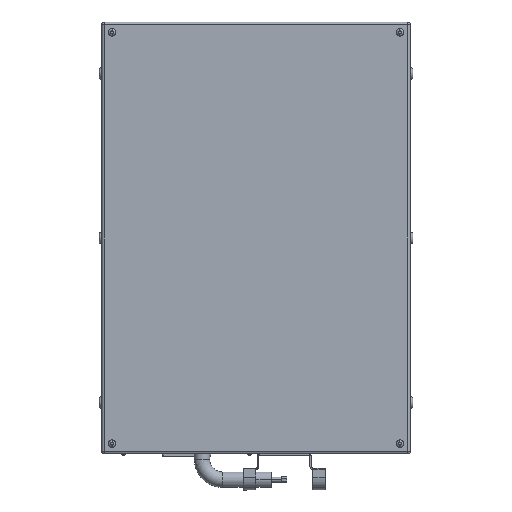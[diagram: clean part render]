
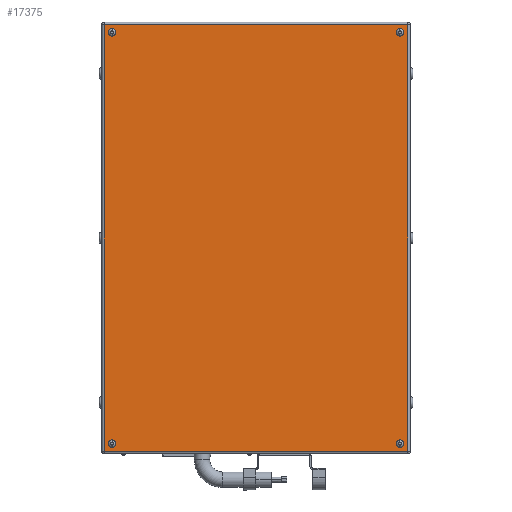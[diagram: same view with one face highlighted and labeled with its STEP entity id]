
A CAD part, front view. The second image highlights one B-rep face of the part: STEP entity #17375.
In plain terms, the highlighted planar face has unit normal (0, -1, 0).
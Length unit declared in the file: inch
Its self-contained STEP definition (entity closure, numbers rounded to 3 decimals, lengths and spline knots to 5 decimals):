
#22 = CIRCLE ( 'NONE', #7686, 0.37402 ) ;
#176 = EDGE_LOOP ( 'NONE', ( #20647, #5209 ) ) ;
#976 = EDGE_CURVE ( 'NONE', #15322, #3089, #1947, .T. ) ;
#1118 = DIRECTION ( 'NONE',  ( 0., -1., 0. ) ) ;
#1128 = AXIS2_PLACEMENT_3D ( 'NONE', #18294, #13074, #6786 ) ;
#1228 = AXIS2_PLACEMENT_3D ( 'NONE', #7418, #4227, #20133 ) ;
#1295 = AXIS2_PLACEMENT_3D ( 'NONE', #20761, #6391, #12793 ) ;
#1802 = LINE ( 'NONE', #8211, #2260 ) ;
#1947 = CIRCLE ( 'NONE', #17012, 0.37402 ) ;
#2100 = VERTEX_POINT ( 'NONE', #4366 ) ;
#2200 = AXIS2_PLACEMENT_3D ( 'NONE', #11062, #6033, #12761 ) ;
#2260 = VECTOR ( 'NONE', #17981, 39.37008 ) ;
#2523 = LINE ( 'NONE', #18989, #7312 ) ;
#2591 = CARTESIAN_POINT ( 'NONE',  ( 14., -11.5, -20. ) ) ;
#2710 = DIRECTION ( 'NONE',  ( 0., 0., -1. ) ) ;
#2843 = LINE ( 'NONE', #17229, #20543 ) ;
#3020 = DIRECTION ( 'NONE',  ( 0., -1., 0. ) ) ;
#3089 = VERTEX_POINT ( 'NONE', #6014 ) ;
#3304 = FACE_BOUND ( 'NONE', #6397, .T. ) ;
#4227 = DIRECTION ( 'NONE',  ( 0., -1., 0. ) ) ;
#4288 = DIRECTION ( 'NONE',  ( 1., 0., 0. ) ) ;
#4366 = CARTESIAN_POINT ( 'NONE',  ( -14., -11.5, -20.37402 ) ) ;
#4441 = CIRCLE ( 'NONE', #6480, 0.37402 ) ;
#4864 = ORIENTED_EDGE ( 'NONE', *, *, #19385, .F. ) ;
#5081 = CARTESIAN_POINT ( 'NONE',  ( 14., -11.5, -19.62598 ) ) ;
#5165 = ORIENTED_EDGE ( 'NONE', *, *, #16680, .T. ) ;
#5209 = ORIENTED_EDGE ( 'NONE', *, *, #11194, .F. ) ;
#5675 = AXIS2_PLACEMENT_3D ( 'NONE', #12470, #1118, #12571 ) ;
#6010 = CARTESIAN_POINT ( 'NONE',  ( -14.734, -11.5, -20.8 ) ) ;
#6014 = CARTESIAN_POINT ( 'NONE',  ( 14., -11.5, -20.37402 ) ) ;
#6033 = DIRECTION ( 'NONE',  ( 0., -1., 0. ) ) ;
#6125 = EDGE_CURVE ( 'NONE', #10639, #15435, #1802, .T. ) ;
#6336 = EDGE_CURVE ( 'NONE', #13051, #10639, #2523, .T. ) ;
#6391 = DIRECTION ( 'NONE',  ( 0., -1., 0. ) ) ;
#6397 = EDGE_LOOP ( 'NONE', ( #17101, #9719 ) ) ;
#6480 = AXIS2_PLACEMENT_3D ( 'NONE', #17403, #3020, #19272 ) ;
#6786 = DIRECTION ( 'NONE',  ( 0., 0., -1. ) ) ;
#7217 = DIRECTION ( 'NONE',  ( 0., -1., 0. ) ) ;
#7294 = EDGE_CURVE ( 'NONE', #16195, #13831, #13059, .T. ) ;
#7312 = VECTOR ( 'NONE', #8918, 39.37008 ) ;
#7403 = ORIENTED_EDGE ( 'NONE', *, *, #11828, .T. ) ;
#7418 = CARTESIAN_POINT ( 'NONE',  ( 14., -11.5, 20. ) ) ;
#7686 = AXIS2_PLACEMENT_3D ( 'NONE', #10779, #20451, #2710 ) ;
#7864 = ORIENTED_EDGE ( 'NONE', *, *, #976, .F. ) ;
#7884 = VERTEX_POINT ( 'NONE', #12505 ) ;
#8116 = EDGE_LOOP ( 'NONE', ( #9576, #20345, #7403, #5165 ) ) ;
#8211 = CARTESIAN_POINT ( 'NONE',  ( -14.8, -11.5, 20.734 ) ) ;
#8732 = VERTEX_POINT ( 'NONE', #19514 ) ;
#8900 = CIRCLE ( 'NONE', #2200, 0.37402 ) ;
#8918 = DIRECTION ( 'NONE',  ( 0., 0., 1. ) ) ;
#9576 = ORIENTED_EDGE ( 'NONE', *, *, #6336, .T. ) ;
#9719 = ORIENTED_EDGE ( 'NONE', *, *, #7294, .F. ) ;
#9756 = EDGE_CURVE ( 'NONE', #15050, #7884, #19429, .T. ) ;
#10111 = FACE_OUTER_BOUND ( 'NONE', #8116, .T. ) ;
#10626 = LINE ( 'NONE', #6010, #10870 ) ;
#10639 = VERTEX_POINT ( 'NONE', #18709 ) ;
#10779 = CARTESIAN_POINT ( 'NONE',  ( -14., -11.5, -20. ) ) ;
#10870 = VECTOR ( 'NONE', #15540, 39.37008 ) ;
#11052 = ORIENTED_EDGE ( 'NONE', *, *, #13340, .F. ) ;
#11062 = CARTESIAN_POINT ( 'NONE',  ( -14., -11.5, -20. ) ) ;
#11132 = DIRECTION ( 'NONE',  ( 0., -1., 0. ) ) ;
#11194 = EDGE_CURVE ( 'NONE', #7884, #15050, #17453, .T. ) ;
#11195 = CARTESIAN_POINT ( 'NONE',  ( 14., -11.5, 20.37402 ) ) ;
#11700 = PLANE ( 'NONE',  #1128 ) ;
#11828 = EDGE_CURVE ( 'NONE', #15435, #8732, #10626, .T. ) ;
#12021 = CARTESIAN_POINT ( 'NONE',  ( -14.734, -11.5, 20.734 ) ) ;
#12470 = CARTESIAN_POINT ( 'NONE',  ( 14., -11.5, 20. ) ) ;
#12505 = CARTESIAN_POINT ( 'NONE',  ( -14., -11.5, 19.62598 ) ) ;
#12571 = DIRECTION ( 'NONE',  ( 0., 0., -1. ) ) ;
#12650 = FACE_BOUND ( 'NONE', #20569, .T. ) ;
#12761 = DIRECTION ( 'NONE',  ( 0., 0., -1. ) ) ;
#12793 = DIRECTION ( 'NONE',  ( 0., 0., -1. ) ) ;
#12976 = CARTESIAN_POINT ( 'NONE',  ( 14., -11.5, 19.62598 ) ) ;
#13051 = VERTEX_POINT ( 'NONE', #18707 ) ;
#13059 = CIRCLE ( 'NONE', #5675, 0.37402 ) ;
#13074 = DIRECTION ( 'NONE',  ( 0., -1., 0. ) ) ;
#13340 = EDGE_CURVE ( 'NONE', #16423, #2100, #22, .T. ) ;
#13614 = DIRECTION ( 'NONE',  ( 0., 0., -1. ) ) ;
#13831 = VERTEX_POINT ( 'NONE', #11195 ) ;
#14152 = EDGE_LOOP ( 'NONE', ( #11052, #4864 ) ) ;
#14204 = FACE_BOUND ( 'NONE', #176, .T. ) ;
#15050 = VERTEX_POINT ( 'NONE', #16949 ) ;
#15322 = VERTEX_POINT ( 'NONE', #5081 ) ;
#15435 = VERTEX_POINT ( 'NONE', #12021 ) ;
#15540 = DIRECTION ( 'NONE',  ( 0., 0., -1. ) ) ;
#16195 = VERTEX_POINT ( 'NONE', #12976 ) ;
#16423 = VERTEX_POINT ( 'NONE', #20709 ) ;
#16680 = EDGE_CURVE ( 'NONE', #8732, #13051, #2843, .T. ) ;
#16949 = CARTESIAN_POINT ( 'NONE',  ( -14., -11.5, 20.37402 ) ) ;
#17012 = AXIS2_PLACEMENT_3D ( 'NONE', #2591, #7217, #13614 ) ;
#17045 = EDGE_CURVE ( 'NONE', #3089, #15322, #4441, .T. ) ;
#17101 = ORIENTED_EDGE ( 'NONE', *, *, #20267, .F. ) ;
#17229 = CARTESIAN_POINT ( 'NONE',  ( 14.8, -11.5, -20.734 ) ) ;
#17375 = ADVANCED_FACE ( 'NONE', ( #3304, #14204, #12650, #18208, #10111 ), #11700, .T. ) ;
#17403 = CARTESIAN_POINT ( 'NONE',  ( 14., -11.5, -20. ) ) ;
#17453 = CIRCLE ( 'NONE', #20145, 0.37402 ) ;
#17554 = DIRECTION ( 'NONE',  ( 0., 0., -1. ) ) ;
#17897 = ORIENTED_EDGE ( 'NONE', *, *, #17045, .F. ) ;
#17981 = DIRECTION ( 'NONE',  ( -1., 0., 0. ) ) ;
#18208 = FACE_BOUND ( 'NONE', #14152, .T. ) ;
#18294 = CARTESIAN_POINT ( 'NONE',  ( 0., -11.5, 0. ) ) ;
#18707 = CARTESIAN_POINT ( 'NONE',  ( 14.734, -11.5, -20.734 ) ) ;
#18709 = CARTESIAN_POINT ( 'NONE',  ( 14.734, -11.5, 20.734 ) ) ;
#18989 = CARTESIAN_POINT ( 'NONE',  ( 14.734, -11.5, 20.8 ) ) ;
#19114 = CARTESIAN_POINT ( 'NONE',  ( -14., -11.5, 20. ) ) ;
#19272 = DIRECTION ( 'NONE',  ( 0., 0., -1. ) ) ;
#19385 = EDGE_CURVE ( 'NONE', #2100, #16423, #8900, .T. ) ;
#19429 = CIRCLE ( 'NONE', #1295, 0.37402 ) ;
#19514 = CARTESIAN_POINT ( 'NONE',  ( -14.734, -11.5, -20.734 ) ) ;
#20018 = CIRCLE ( 'NONE', #1228, 0.37402 ) ;
#20133 = DIRECTION ( 'NONE',  ( 0., 0., -1. ) ) ;
#20145 = AXIS2_PLACEMENT_3D ( 'NONE', #19114, #11132, #17554 ) ;
#20267 = EDGE_CURVE ( 'NONE', #13831, #16195, #20018, .T. ) ;
#20345 = ORIENTED_EDGE ( 'NONE', *, *, #6125, .T. ) ;
#20451 = DIRECTION ( 'NONE',  ( 0., -1., 0. ) ) ;
#20543 = VECTOR ( 'NONE', #4288, 39.37008 ) ;
#20569 = EDGE_LOOP ( 'NONE', ( #7864, #17897 ) ) ;
#20647 = ORIENTED_EDGE ( 'NONE', *, *, #9756, .F. ) ;
#20709 = CARTESIAN_POINT ( 'NONE',  ( -14., -11.5, -19.62598 ) ) ;
#20761 = CARTESIAN_POINT ( 'NONE',  ( -14., -11.5, 20. ) ) ;
